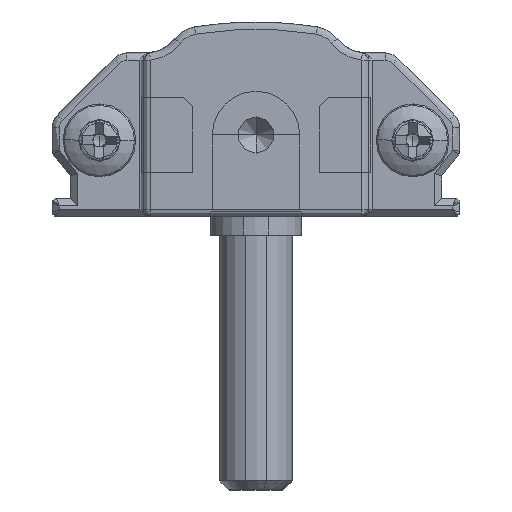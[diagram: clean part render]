
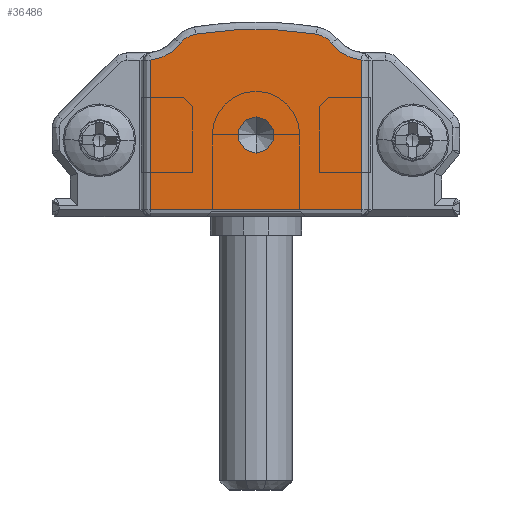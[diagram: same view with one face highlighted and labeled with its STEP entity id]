
A CAD part, front view. The second image highlights one B-rep face of the part: STEP entity #36486.
In plain terms, the highlighted planar face has unit normal (0, -1, 0).
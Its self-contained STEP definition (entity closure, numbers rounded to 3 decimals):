
#444 = DIRECTION ( 'NONE',  ( 0., 0., -1. ) ) ;
#856 = FACE_BOUND ( 'NONE', #41580, .T. ) ;
#2027 = CARTESIAN_POINT ( 'NONE',  ( 5.4, -15., 8.612 ) ) ;
#2288 = AXIS2_PLACEMENT_3D ( 'NONE', #21129, #35377, #13820 ) ;
#3007 = ORIENTED_EDGE ( 'NONE', *, *, #42964, .T. ) ;
#3735 = CARTESIAN_POINT ( 'NONE',  ( 5.4, -15., 0.4 ) ) ;
#4295 = CARTESIAN_POINT ( 'NONE',  ( 14.508, -15., 10.034 ) ) ;
#5023 = VECTOR ( 'NONE', #29464, 1000. ) ;
#5215 = LINE ( 'NONE', #25919, #5023 ) ;
#7107 = DIRECTION ( 'NONE',  ( 0., 0., -1. ) ) ;
#7197 = VERTEX_POINT ( 'NONE', #4295 ) ;
#7775 = ORIENTED_EDGE ( 'NONE', *, *, #41468, .T. ) ;
#9468 = ORIENTED_EDGE ( 'NONE', *, *, #41796, .F. ) ;
#11348 = EDGE_CURVE ( 'NONE', #19250, #30618, #5215, .T. ) ;
#11643 = ORIENTED_EDGE ( 'NONE', *, *, #32960, .T. ) ;
#11863 = DIRECTION ( 'NONE',  ( 0., 0., -1. ) ) ;
#12443 = DIRECTION ( 'NONE',  ( 0., 1., 0. ) ) ;
#12462 = CARTESIAN_POINT ( 'NONE',  ( 17., -15., 0.4 ) ) ;
#12487 = ORIENTED_EDGE ( 'NONE', *, *, #32421, .T. ) ;
#13673 = ORIENTED_EDGE ( 'NONE', *, *, #17635, .T. ) ;
#13766 = DIRECTION ( 'NONE',  ( 0., 1., 0. ) ) ;
#13804 = DIRECTION ( 'NONE',  ( 0., -1., 0. ) ) ;
#13820 = DIRECTION ( 'NONE',  ( 0., 0., -1. ) ) ;
#13836 = AXIS2_PLACEMENT_3D ( 'NONE', #14787, #29430, #444 ) ;
#14203 = LINE ( 'NONE', #3735, #42631 ) ;
#14481 = FACE_OUTER_BOUND ( 'NONE', #35230, .T. ) ;
#14787 = CARTESIAN_POINT ( 'NONE',  ( 8.1, -15., 8.75 ) ) ;
#15771 = CIRCLE ( 'NONE', #21030, 1. ) ;
#15846 = VERTEX_POINT ( 'NONE', #30471 ) ;
#15949 = ORIENTED_EDGE ( 'NONE', *, *, #27194, .T. ) ;
#17608 = CARTESIAN_POINT ( 'NONE',  ( 11.2, -15., 5.5 ) ) ;
#17635 = EDGE_CURVE ( 'NONE', #30618, #46318, #28771, .T. ) ;
#17689 = ORIENTED_EDGE ( 'NONE', *, *, #11348, .T. ) ;
#18191 = ORIENTED_EDGE ( 'NONE', *, *, #43537, .T. ) ;
#19250 = VERTEX_POINT ( 'NONE', #12462 ) ;
#19326 = CARTESIAN_POINT ( 'NONE',  ( 5.4, -15., 0.4 ) ) ;
#19575 = CARTESIAN_POINT ( 'NONE',  ( 17., -15., 0.4 ) ) ;
#19595 = VERTEX_POINT ( 'NONE', #32973 ) ;
#20498 = CIRCLE ( 'NONE', #25027, 20.676 ) ;
#20777 = DIRECTION ( 'NONE',  ( 0., -1., 0. ) ) ;
#20882 = DIRECTION ( 'NONE',  ( 0., -1., 0. ) ) ;
#21030 = AXIS2_PLACEMENT_3D ( 'NONE', #35342, #20882, #7107 ) ;
#21129 = CARTESIAN_POINT ( 'NONE',  ( 11.2, -15., 4.5 ) ) ;
#22265 = DIRECTION ( 'NONE',  ( 0., -1., 0. ) ) ;
#22710 = PLANE ( 'NONE',  #25091 ) ;
#22758 = CIRCLE ( 'NONE', #2288, 1. ) ;
#22884 = LINE ( 'NONE', #19575, #46705 ) ;
#24889 = VERTEX_POINT ( 'NONE', #37394 ) ;
#25027 = AXIS2_PLACEMENT_3D ( 'NONE', #31052, #13804, #31295 ) ;
#25091 = AXIS2_PLACEMENT_3D ( 'NONE', #40302, #22265, #11863 ) ;
#25919 = CARTESIAN_POINT ( 'NONE',  ( 17., -15., 8.612 ) ) ;
#26898 = DIRECTION ( 'NONE',  ( 0., 0., -1. ) ) ;
#27194 = EDGE_CURVE ( 'NONE', #19595, #34357, #30960, .T. ) ;
#27426 = CIRCLE ( 'NONE', #13836, 1.3 ) ;
#28021 = AXIS2_PLACEMENT_3D ( 'NONE', #46799, #20777, #35243 ) ;
#28190 = DIRECTION ( 'NONE',  ( 0., 0., -1. ) ) ;
#28771 = CIRCLE ( 'NONE', #30282, 2.4 ) ;
#29430 = DIRECTION ( 'NONE',  ( 0., -1., 0. ) ) ;
#29464 = DIRECTION ( 'NONE',  ( 0., 0., 1. ) ) ;
#30230 = DIRECTION ( 'NONE',  ( 1., 0., 0. ) ) ;
#30282 = AXIS2_PLACEMENT_3D ( 'NONE', #44908, #12443, #26898 ) ;
#30471 = CARTESIAN_POINT ( 'NONE',  ( 7.892, -15., 10.034 ) ) ;
#30618 = VERTEX_POINT ( 'NONE', #43069 ) ;
#30960 = CIRCLE ( 'NONE', #32473, 2.4 ) ;
#31052 = CARTESIAN_POINT ( 'NONE',  ( 11.2, -15., -10.376 ) ) ;
#31295 = DIRECTION ( 'NONE',  ( 0., 0., -1. ) ) ;
#32421 = EDGE_CURVE ( 'NONE', #15846, #19595, #27426, .T. ) ;
#32473 = AXIS2_PLACEMENT_3D ( 'NONE', #46166, #13766, #28190 ) ;
#32960 = EDGE_CURVE ( 'NONE', #34357, #38707, #14203, .T. ) ;
#32973 = CARTESIAN_POINT ( 'NONE',  ( 7.068, -15., 9.541 ) ) ;
#34079 = CIRCLE ( 'NONE', #28021, 1.3 ) ;
#34357 = VERTEX_POINT ( 'NONE', #2027 ) ;
#35230 = EDGE_LOOP ( 'NONE', ( #17689, #13673, #18191, #3007, #12487, #15949, #11643, #7775 ) ) ;
#35243 = DIRECTION ( 'NONE',  ( 0., 0., -1. ) ) ;
#35342 = CARTESIAN_POINT ( 'NONE',  ( 11.2, -15., 4.5 ) ) ;
#35377 = DIRECTION ( 'NONE',  ( 0., -1., 0. ) ) ;
#36486 = ADVANCED_FACE ( 'NONE', ( #14481, #856 ), #22710, .T. ) ;
#37394 = CARTESIAN_POINT ( 'NONE',  ( 11.2, -15., 3.5 ) ) ;
#38707 = VERTEX_POINT ( 'NONE', #19326 ) ;
#39095 = VERTEX_POINT ( 'NONE', #17608 ) ;
#40302 = CARTESIAN_POINT ( 'NONE',  ( 22.15, -15., 3.606 ) ) ;
#41468 = EDGE_CURVE ( 'NONE', #38707, #19250, #22884, .T. ) ;
#41580 = EDGE_LOOP ( 'NONE', ( #44971, #9468 ) ) ;
#41796 = EDGE_CURVE ( 'NONE', #39095, #24889, #15771, .T. ) ;
#42631 = VECTOR ( 'NONE', #43110, 1000. ) ;
#42964 = EDGE_CURVE ( 'NONE', #7197, #15846, #20498, .T. ) ;
#43069 = CARTESIAN_POINT ( 'NONE',  ( 17., -15., 8.612 ) ) ;
#43110 = DIRECTION ( 'NONE',  ( 0., 0., -1. ) ) ;
#43537 = EDGE_CURVE ( 'NONE', #46318, #7197, #34079, .T. ) ;
#44082 = EDGE_CURVE ( 'NONE', #24889, #39095, #22758, .T. ) ;
#44908 = CARTESIAN_POINT ( 'NONE',  ( 17.238, -15., 11. ) ) ;
#44971 = ORIENTED_EDGE ( 'NONE', *, *, #44082, .F. ) ;
#46166 = CARTESIAN_POINT ( 'NONE',  ( 5.162, -15., 11. ) ) ;
#46318 = VERTEX_POINT ( 'NONE', #46970 ) ;
#46705 = VECTOR ( 'NONE', #30230, 1000. ) ;
#46799 = CARTESIAN_POINT ( 'NONE',  ( 14.3, -15., 8.75 ) ) ;
#46970 = CARTESIAN_POINT ( 'NONE',  ( 15.332, -15., 9.541 ) ) ;
